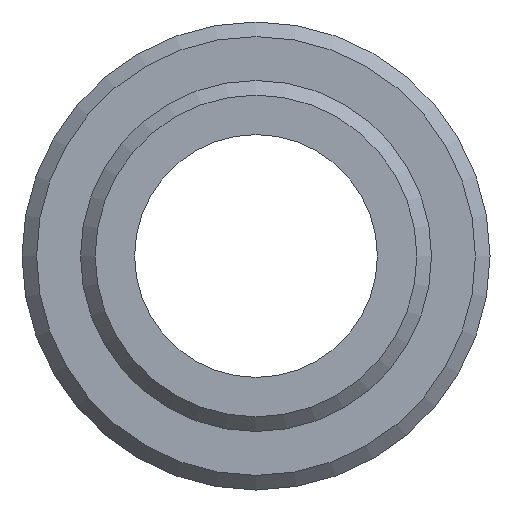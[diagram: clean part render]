
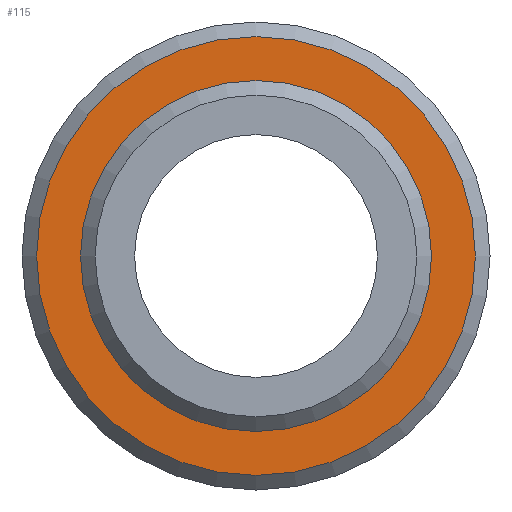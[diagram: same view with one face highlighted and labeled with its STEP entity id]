
A CAD part, front view. The second image highlights one B-rep face of the part: STEP entity #115.
In plain terms, the highlighted planar face has unit normal (0, -1, 0).
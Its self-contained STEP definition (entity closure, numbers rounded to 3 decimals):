
#73=CARTESIAN_POINT('',(-7.5,25.0,0.));
#74=VERTEX_POINT('',#73);
#75=CARTESIAN_POINT('',(0.0,25.0,0.0));
#76=DIRECTION('',(0.0,1.0,0.0));
#77=DIRECTION('',(1.0,0.0,0.0));
#78=AXIS2_PLACEMENT_3D('',#75,#76,#77);
#79=CIRCLE('',#78,7.5);
#80=EDGE_CURVE('',#74,#74,#79,.T.);
#96=CARTESIAN_POINT('',(-7.,25.0,0.0));
#97=DIRECTION('',(0.0,-1.0,0.0));
#98=DIRECTION('',(0.0,0.0,-1.0));
#99=AXIS2_PLACEMENT_3D('',#96,#97,#98);
#100=PLANE('',#99);
#101=ORIENTED_EDGE('',*,*,#80,.F.);
#102=EDGE_LOOP('',(#101));
#103=FACE_OUTER_BOUND('',#102,.T.);
#104=CARTESIAN_POINT('',(-6.,25.0,0.0));
#105=VERTEX_POINT('',#104);
#106=CARTESIAN_POINT('',(0.0,25.0,0.0));
#107=DIRECTION('',(0.0,1.0,0.0));
#108=DIRECTION('',(-1.0,0.0,0.0));
#109=AXIS2_PLACEMENT_3D('',#106,#107,#108);
#110=CIRCLE('',#109,6.);
#111=EDGE_CURVE('',#105,#105,#110,.T.);
#112=ORIENTED_EDGE('',*,*,#111,.T.);
#113=EDGE_LOOP('',(#112));
#114=FACE_BOUND('',#113,.T.);
#115=ADVANCED_FACE('',(#103,#114),#100,.T.);
